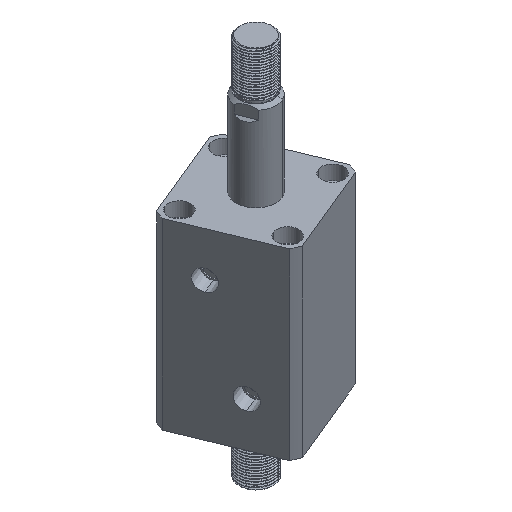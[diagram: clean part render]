
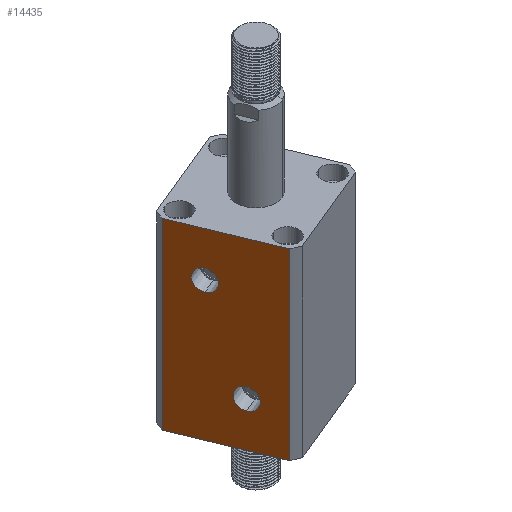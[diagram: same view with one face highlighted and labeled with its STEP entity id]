
A CAD part, isometric view. The second image highlights one B-rep face of the part: STEP entity #14435.
In plain terms, the highlighted planar face has unit normal (-0.924, -0.383, 0) as drawn and (0, 1, 0) by its records, which use the part's own axes.
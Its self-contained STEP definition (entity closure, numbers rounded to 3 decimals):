
#188 = EDGE_LOOP ( 'NONE', ( #8505, #5464 ) ) ;
#441 = VERTEX_POINT ( 'NONE', #14064 ) ;
#766 = LINE ( 'NONE', #11887, #14787 ) ;
#843 = CIRCLE ( 'NONE', #16950, 6.532 ) ;
#889 = DIRECTION ( 'NONE',  ( 0., 0., 1. ) ) ;
#1021 = DIRECTION ( 'NONE',  ( 0., 0., -1. ) ) ;
#1197 = DIRECTION ( 'NONE',  ( 0., 0., 1. ) ) ;
#1311 = DIRECTION ( 'NONE',  ( 0., 0., 1. ) ) ;
#1318 = VERTEX_POINT ( 'NONE', #4779 ) ;
#1802 = VERTEX_POINT ( 'NONE', #2565 ) ;
#1863 = EDGE_CURVE ( 'NONE', #1802, #10991, #12516, .T. ) ;
#1917 = CARTESIAN_POINT ( 'NONE',  ( 10., 35., 93.532 ) ) ;
#2014 = FACE_BOUND ( 'NONE', #16510, .T. ) ;
#2143 = DIRECTION ( 'NONE',  ( 0., 1., 0. ) ) ;
#2206 = DIRECTION ( 'NONE',  ( 0., 0., -1. ) ) ;
#2565 = CARTESIAN_POINT ( 'NONE',  ( 30.615, 35., 0. ) ) ;
#2858 = VERTEX_POINT ( 'NONE', #9894 ) ;
#3519 = CARTESIAN_POINT ( 'NONE',  ( -35., 35., 115. ) ) ;
#3781 = DIRECTION ( 'NONE',  ( -1., 0., 0. ) ) ;
#3852 = EDGE_CURVE ( 'NONE', #5199, #441, #843, .T. ) ;
#4471 = EDGE_CURVE ( 'NONE', #14057, #17010, #8036, .T. ) ;
#4779 = CARTESIAN_POINT ( 'NONE',  ( -30.615, 35., 115. ) ) ;
#5101 = AXIS2_PLACEMENT_3D ( 'NONE', #17116, #9015, #889 ) ;
#5199 = VERTEX_POINT ( 'NONE', #1917 ) ;
#5314 = VECTOR ( 'NONE', #1311, 1000. ) ;
#5464 = ORIENTED_EDGE ( 'NONE', *, *, #4471, .F. ) ;
#5743 = EDGE_CURVE ( 'NONE', #10991, #1318, #15237, .T. ) ;
#5918 = VECTOR ( 'NONE', #1021, 1000. ) ;
#6822 = EDGE_CURVE ( 'NONE', #1802, #2858, #766, .T. ) ;
#6937 = CARTESIAN_POINT ( 'NONE',  ( -10., 35., 21.468 ) ) ;
#7599 = ORIENTED_EDGE ( 'NONE', *, *, #1863, .F. ) ;
#7789 = CARTESIAN_POINT ( 'NONE',  ( -10., 35., 28. ) ) ;
#8036 = CIRCLE ( 'NONE', #13578, 6.532 ) ;
#8432 = AXIS2_PLACEMENT_3D ( 'NONE', #17432, #9317, #1197 ) ;
#8505 = ORIENTED_EDGE ( 'NONE', *, *, #16886, .F. ) ;
#8849 = CIRCLE ( 'NONE', #8432, 6.532 ) ;
#8973 = PLANE ( 'NONE',  #12650 ) ;
#9015 = DIRECTION ( 'NONE',  ( 0., 1., 0. ) ) ;
#9128 = DIRECTION ( 'NONE',  ( 0., 0., 1. ) ) ;
#9222 = FACE_OUTER_BOUND ( 'NONE', #14166, .T. ) ;
#9317 = DIRECTION ( 'NONE',  ( 0., 1., 0. ) ) ;
#9468 = ORIENTED_EDGE ( 'NONE', *, *, #3852, .F. ) ;
#9576 = EDGE_CURVE ( 'NONE', #1318, #2858, #11832, .T. ) ;
#9894 = CARTESIAN_POINT ( 'NONE',  ( -30.615, 35., 0. ) ) ;
#9963 = CIRCLE ( 'NONE', #5101, 6.532 ) ;
#10270 = CARTESIAN_POINT ( 'NONE',  ( 10., 35., 87. ) ) ;
#10328 = DIRECTION ( 'NONE',  ( 0., -1., 0. ) ) ;
#10501 = CARTESIAN_POINT ( 'NONE',  ( -30.615, 35., -185. ) ) ;
#10716 = EDGE_CURVE ( 'NONE', #441, #5199, #8849, .T. ) ;
#10991 = VERTEX_POINT ( 'NONE', #15771 ) ;
#11197 = ORIENTED_EDGE ( 'NONE', *, *, #10716, .F. ) ;
#11615 = DIRECTION ( 'NONE',  ( 0., 0., 1. ) ) ;
#11832 = LINE ( 'NONE', #10501, #5918 ) ;
#11887 = CARTESIAN_POINT ( 'NONE',  ( -35., 35., 0. ) ) ;
#12516 = LINE ( 'NONE', #13482, #5314 ) ;
#12650 = AXIS2_PLACEMENT_3D ( 'NONE', #3519, #10328, #2206 ) ;
#13482 = CARTESIAN_POINT ( 'NONE',  ( 30.615, 35., -185. ) ) ;
#13578 = AXIS2_PLACEMENT_3D ( 'NONE', #7789, #17238, #9128 ) ;
#14057 = VERTEX_POINT ( 'NONE', #6937 ) ;
#14064 = CARTESIAN_POINT ( 'NONE',  ( 10., 35., 80.468 ) ) ;
#14166 = EDGE_LOOP ( 'NONE', ( #7599, #17318, #16489, #15439 ) ) ;
#14435 = ADVANCED_FACE ( 'NONE', ( #16453, #2014, #9222 ), #8973, .F. ) ;
#14563 = CARTESIAN_POINT ( 'NONE',  ( -35., 35., 115. ) ) ;
#14618 = DIRECTION ( 'NONE',  ( -1., 0., 0. ) ) ;
#14779 = CARTESIAN_POINT ( 'NONE',  ( -10., 35., 34.532 ) ) ;
#14787 = VECTOR ( 'NONE', #3781, 1000. ) ;
#14806 = VECTOR ( 'NONE', #14618, 1000. ) ;
#15237 = LINE ( 'NONE', #14563, #14806 ) ;
#15439 = ORIENTED_EDGE ( 'NONE', *, *, #5743, .F. ) ;
#15771 = CARTESIAN_POINT ( 'NONE',  ( 30.615, 35., 115. ) ) ;
#16453 = FACE_BOUND ( 'NONE', #188, .T. ) ;
#16489 = ORIENTED_EDGE ( 'NONE', *, *, #9576, .F. ) ;
#16510 = EDGE_LOOP ( 'NONE', ( #9468, #11197 ) ) ;
#16886 = EDGE_CURVE ( 'NONE', #17010, #14057, #9963, .T. ) ;
#16950 = AXIS2_PLACEMENT_3D ( 'NONE', #10270, #2143, #11615 ) ;
#17010 = VERTEX_POINT ( 'NONE', #14779 ) ;
#17116 = CARTESIAN_POINT ( 'NONE',  ( -10., 35., 28. ) ) ;
#17238 = DIRECTION ( 'NONE',  ( 0., 1., 0. ) ) ;
#17318 = ORIENTED_EDGE ( 'NONE', *, *, #6822, .T. ) ;
#17432 = CARTESIAN_POINT ( 'NONE',  ( 10., 35., 87. ) ) ;
